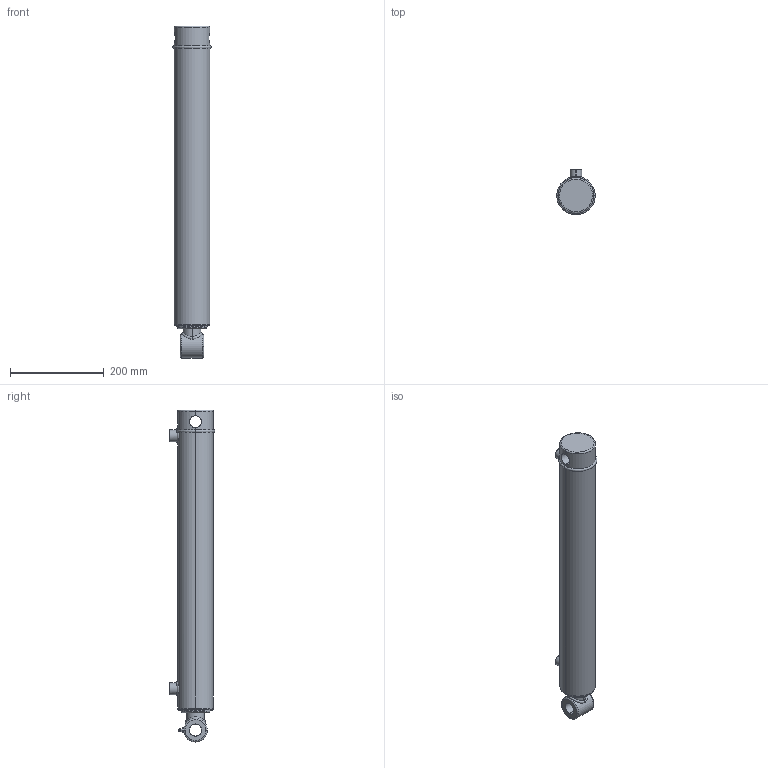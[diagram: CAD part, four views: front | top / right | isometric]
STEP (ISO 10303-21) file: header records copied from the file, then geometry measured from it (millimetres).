
FILE_DESCRIPTION (( 'STEP AP203' ), '1' );
FILE_NAME ('SB-C250150x508 (20).STEP', '2014-11-19T01:50:32', ( '' ), ( '' ), 'SwSTEP 2.0', 'SolidWorks 2014', '' );
FILE_SCHEMA (( 'CONFIG_CONTROL_DESIGN' ));
Length unit declared in the file: millimetre
Products named in the file (7): 20 SPARE; 18 NPT GREASE NIPPLE; SPARE 20; SB-C250150x508 (20); SB-C250250X508 (20) BODY; 2.5 INCH CIRCLIP; SB-C250150x508 (20) BODY
Assembly tree (6 placements, depth 3):
  SB-C250150x508 (20)
    SB-C250150x508 (20) BODY
      SB-C250250X508 (20) BODY
      2.5 INCH CIRCLIP
    SPARE 20
      20 SPARE
      18 NPT GREASE NIPPLE
Bounding box: 82.2 x 97.2 x 709.4 mm (x, y, z)
Volume: 3377748.3 mm3; surface area: 294161.6 mm2
Topology: 4 solids, 4 shells, 135 faces, 315 edges, 197 vertices
Faces by surface type: cylinder 51, plane 29, cone 22, bspline 19, torus 12, sphere 2
Entity records: 10875 total; most frequent: CARTESIAN_POINT 7141, DIRECTION 640, ORIENTED_EDGE 622, EDGE_CURVE 311, AXIS2_PLACEMENT_3D 271, VERTEX_POINT 197, EDGE_LOOP 160, CIRCLE 144
